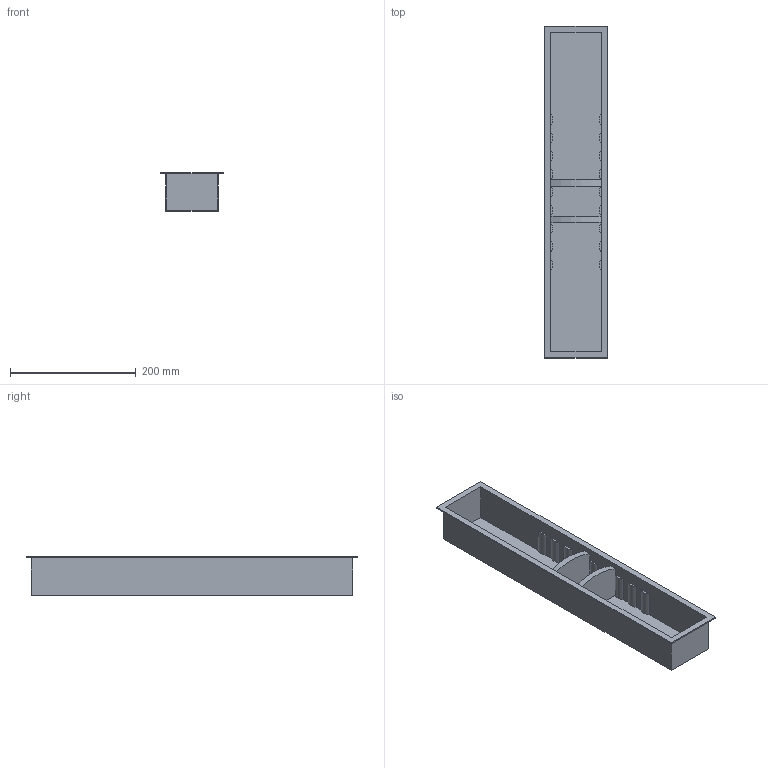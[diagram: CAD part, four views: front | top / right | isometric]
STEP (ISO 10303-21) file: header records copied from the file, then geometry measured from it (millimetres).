
FILE_DESCRIPTION (( 'STEP AP214' ), '1' );
FILE_NAME ('Vario-Schale_NL550.step', '2010-10-29T10:18:47', ( 'grass' ), ( '' ), 'SwSTEP 2.0', 'SolidWorks 2010', '' );
FILE_SCHEMA (( 'AUTOMOTIVE_DESIGN' ));
Length unit declared in the file: millimetre
Products named in the file (1): Vario-Schale_NL550
Bounding box: 100 x 529 x 62 mm (x, y, z)
Volume: 367425.2 mm3; surface area: 267825.3 mm2
Topology: 1 solids, 1 shells, 60 faces, 166 edges, 110 vertices
Faces by surface type: plane 40, cylinder 20
Entity records: 1948 total; most frequent: CARTESIAN_POINT 337, ORIENTED_EDGE 332, DIRECTION 328, EDGE_CURVE 166, VECTOR 126, LINE 126, VERTEX_POINT 110, AXIS2_PLACEMENT_3D 101
